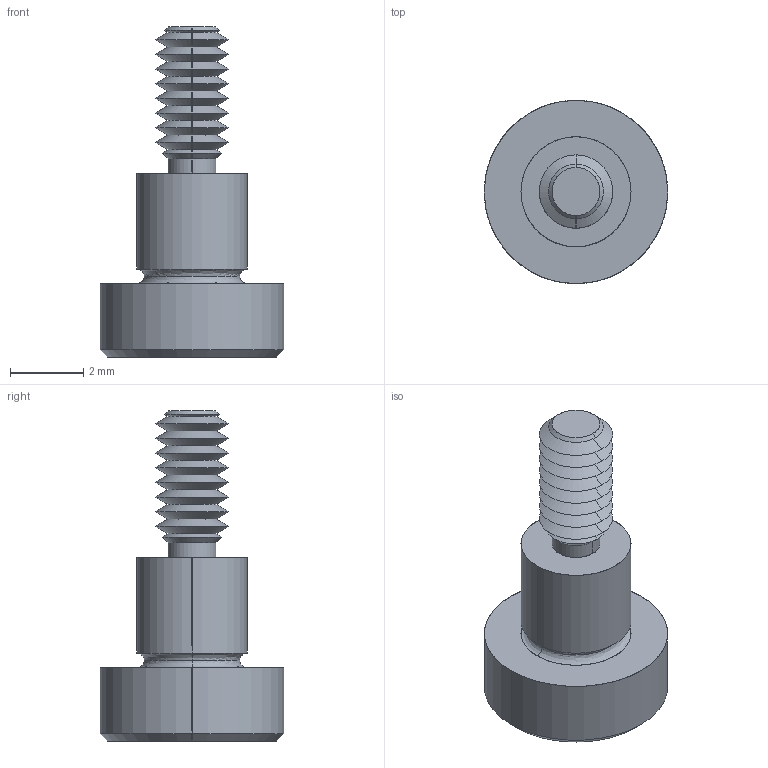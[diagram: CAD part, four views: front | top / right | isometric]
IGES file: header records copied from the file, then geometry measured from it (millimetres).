
Start section: SolidWorks IGES file using analytic representation for surfaces
Global section: file name: C:\Users\IanO\Documents\Temp Folder\GENERAL\SCREW REVISION\P0130_v2\P0130.T5_v2_20220106_IGES\P0130.030-003-T5.igs; native system: SolidWorks 2019; preprocessor: SolidWorks 2019; author: IanO; date: 220106.215802; units: millimetre
Bounding box: 5 x 5 x 9 mm (x, y, z)
Surface area: 144.5 mm2 (no closed solid volume)
Topology: 0 solids, 0 shells, 76 faces, 508 edges, 506 vertices
Faces by surface type: revolution 56, bspline 20
